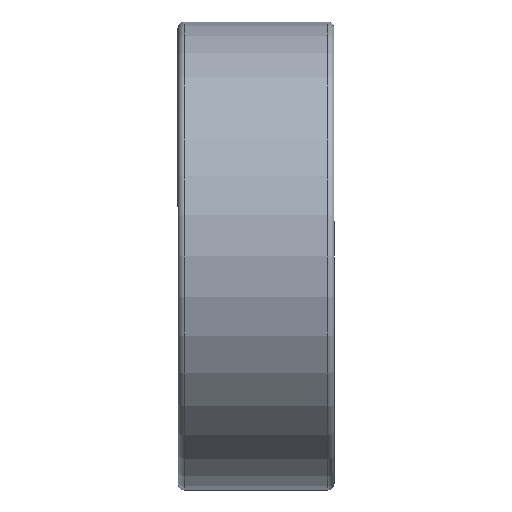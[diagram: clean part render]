
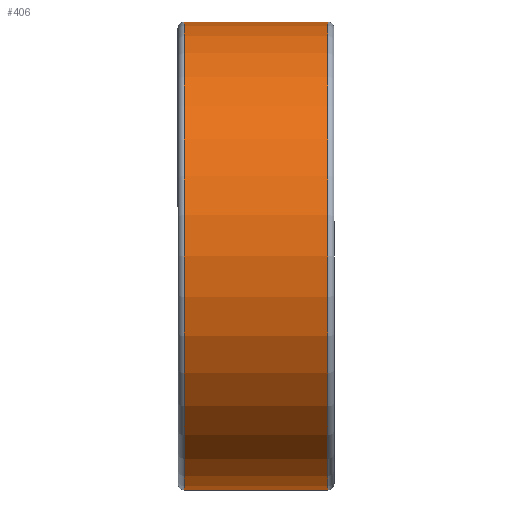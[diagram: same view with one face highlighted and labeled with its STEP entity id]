
A CAD part, front view. The second image highlights one B-rep face of the part: STEP entity #406.
In plain terms, the highlighted cylindrical face has radius 7.5 mm (diameter 15 mm), a full revolution.
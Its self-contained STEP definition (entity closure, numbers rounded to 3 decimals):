
#140=CYLINDRICAL_SURFACE('',#610,7.5);
#204=EDGE_LOOP('',(#280));
#205=EDGE_LOOP('',(#281));
#280=ORIENTED_EDGE('',*,*,#326,.F.);
#281=ORIENTED_EDGE('',*,*,#324,.T.);
#324=EDGE_CURVE('',#555,#555,#344,.T.);
#326=EDGE_CURVE('',#557,#557,#346,.T.);
#344=CIRCLE('',#606,7.5);
#346=CIRCLE('',#609,7.5);
#406=ADVANCED_FACE('',(#493,#494),#140,.T.);
#493=FACE_BOUND('',#204,.T.);
#494=FACE_BOUND('',#205,.T.);
#555=VERTEX_POINT('',#1866);
#557=VERTEX_POINT('',#1871);
#606=AXIS2_PLACEMENT_3D('',#1865,#707,#708);
#609=AXIS2_PLACEMENT_3D('',#1870,#713,#714);
#610=AXIS2_PLACEMENT_3D('',#1872,#715,#716);
#707=DIRECTION('',(1.,0.,0.));
#708=DIRECTION('',(0.,0.,-1.));
#713=DIRECTION('',(1.,0.,0.));
#714=DIRECTION('',(0.,0.,-1.));
#715=DIRECTION('',(1.,0.,0.));
#716=DIRECTION('',(0.,0.,-1.));
#1865=CARTESIAN_POINT('',(-2.3,0.,0.));
#1866=CARTESIAN_POINT('',(-2.3,0.,-7.5));
#1870=CARTESIAN_POINT('',(2.3,0.,0.));
#1871=CARTESIAN_POINT('',(2.3,0.,-7.5));
#1872=CARTESIAN_POINT('',(-2.3,0.,0.));
